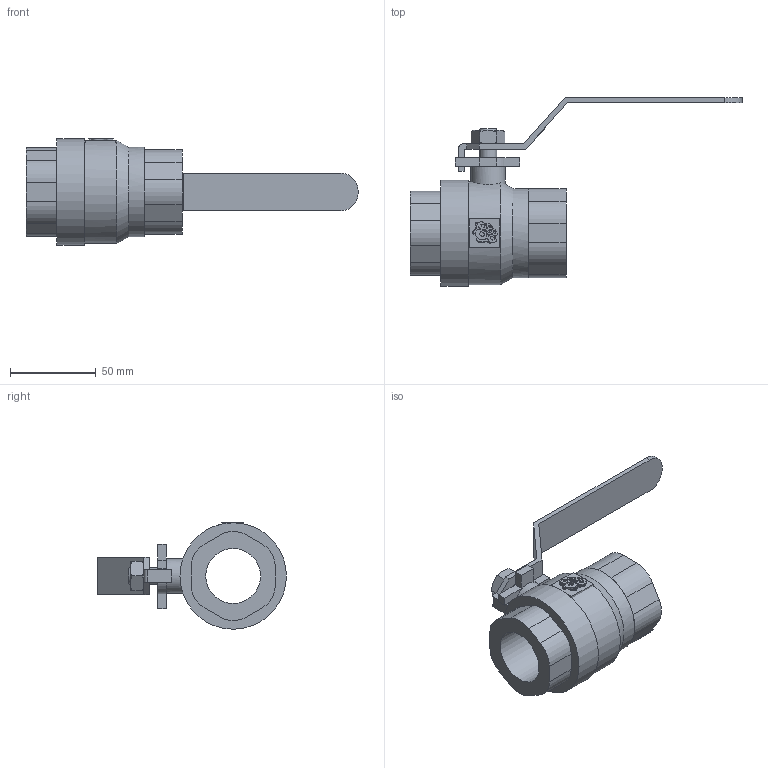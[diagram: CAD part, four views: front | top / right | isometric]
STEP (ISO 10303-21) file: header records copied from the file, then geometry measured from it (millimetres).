
FILE_DESCRIPTION(('STEP AP203'), '1');
FILE_NAME('7014-032-63_1', '', ('UNSPECIFIED'), ('UNSPECIFIED'), 'C3D Converter', 'C3D Toolkit', '');
FILE_SCHEMA(('CONFIG_CONTROL_DESIGN'));
Length unit declared in the file: millimetre
Bounding box: 193.5 x 110 x 62 mm (x, y, z)
Volume: 167245.2 mm3; surface area: 41499.6 mm2
Topology: 10 solids, 10 shells, 917 faces, 2677 edges, 1788 vertices
Faces by surface type: plane 890, cylinder 23, cone 3, torus 1
Full cylindrical faces by diameter (mm): 10 x1, 20 x1, 32 x1, 52 x1, 60 x1, 62 x1
Entity records: 37928 total; most frequent: CARTESIAN_POINT 6162, ORIENTED_EDGE 5334, DIRECTION 4546, EDGE_CURVE 2667, LINE 2588, VECTOR 2588, VERTEX_POINT 1788, AXIS2_PLACEMENT_3D 979
